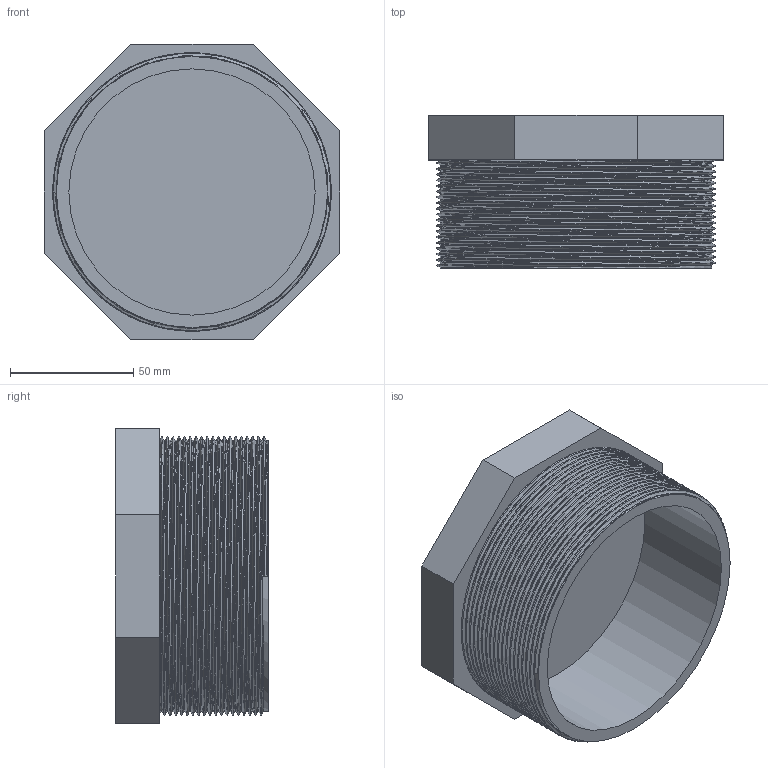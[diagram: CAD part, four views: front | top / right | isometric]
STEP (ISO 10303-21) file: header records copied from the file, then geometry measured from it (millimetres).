
FILE_DESCRIPTION(/* description */ ('PVC tappo filettato BSP maschio'),/* implementation_level */ '2;1');
FILE_NAME(/* name */ 'C:\Users\POLYPIPE\Desktop\DATASET INVENTOR\LIBRERIA EFFAST\RACCORDI 3DxWEB\RER\3D_RERTAE\3D_RERTAE110L.stp',/* time_stamp */ '2018-01-19T17:18:46+01:00',/* author */ ('POLYPIPE'),/* organization */ ('Polypipe Italia s.r.l.'),/* preprocessor_version */ 'ST-DEVELOPER v16.1',/* originating_system */ 'Autodesk Inventor 2016',/* authorisation */ '');
FILE_SCHEMA (('CONFIG_CONTROL_DESIGN'));
Length unit declared in the file: millimetre
Products named in the file (1): 3D_RERTAE
Bounding box: 120 x 62 x 120 mm (x, y, z)
Volume: 298773 mm3; surface area: 70659.7 mm2
Topology: 1 solids, 1 shells, 20 faces, 45 edges, 29 vertices
Faces by surface type: plane 13, bspline 5, cylinder 2
Full cylindrical faces by diameter (mm): 100 x1, 110.072 x1
Entity records: 7953 total; most frequent: CARTESIAN_POINT 7514, ORIENTED_EDGE 88, DIRECTION 71, EDGE_CURVE 44, VERTEX_POINT 29, LINE 27, VECTOR 27, EDGE_LOOP 23
